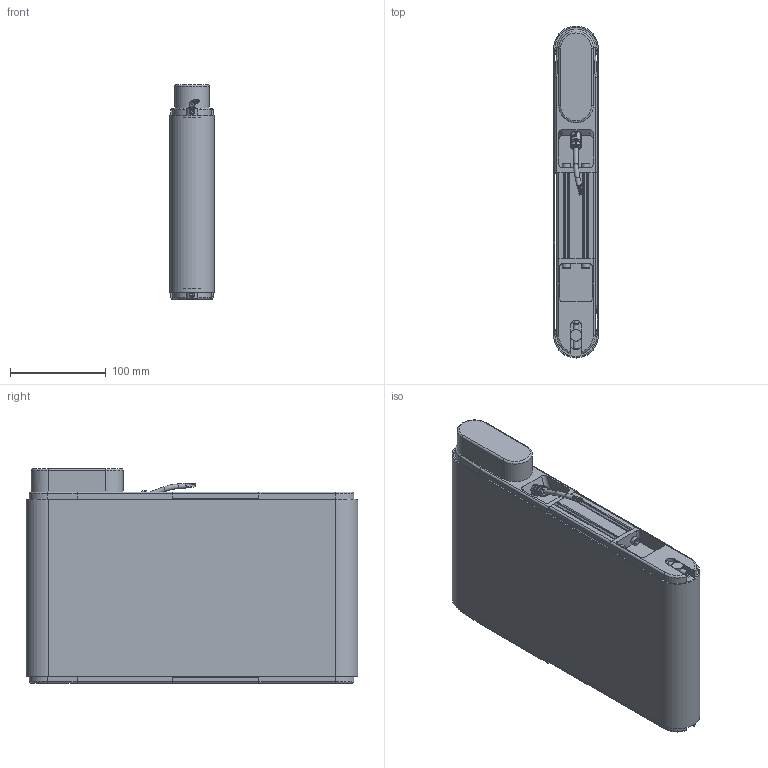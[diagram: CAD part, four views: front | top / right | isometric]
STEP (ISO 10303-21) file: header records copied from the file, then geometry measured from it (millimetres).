
FILE_DESCRIPTION(/* description */ (''),/* implementation_level */ '2;1');
FILE_NAME(/* name */ 'G:\DATEN\CAD\Förderband\Marketing\3D-Modelle (Standard)\FR-40-200-Q\FR-40-200-Q-300-K.stp',/* time_stamp */ '2019-05-09T10:08:09+02:00',/* author */ ('melanie.ochs'),/* organization */ (''),/* preprocessor_version */ 'ST-DEVELOPER v17',/* originating_system */ 'Autodesk Inventor 2019',/* authorisation */ '');
FILE_SCHEMA (('CONFIG_CONTROL_DESIGN'));
Length unit declared in the file: centimetre
Products named in the file (1): FR-40-200-Q-300-K
Bounding box: 46.6 x 346.6 x 224.5 mm (x, y, z)
Volume: 2177411.8 mm3; surface area: 397565.1 mm2
Topology: 6 solids, 25 shells, 924 faces, 2504 edges, 1671 vertices
Faces by surface type: plane 473, cylinder 291, cone 70, bspline 61, torus 29
Full cylindrical faces by diameter (mm): 1 x6, 3 x1, 4 x12, 4.3 x4, 4.917 x3, 5 x11, 5.5 x8, 6 x4, 6.5 x1, 6.773 x1, 6.917 x3, 8 x4, 8.3 x4, 8.5 x8, 8.773 x1, 10 x2, 11 x1, 12 x6, 25 x2, 28 x2, 28.01 x2, 30 x1
Entity records: 31084 total; most frequent: CARTESIAN_POINT 6835, ORIENTED_EDGE 4964, DIRECTION 4769, EDGE_CURVE 2482, AXIS2_PLACEMENT_3D 1714, VERTEX_POINT 1670, LINE 1341, VECTOR 1341
